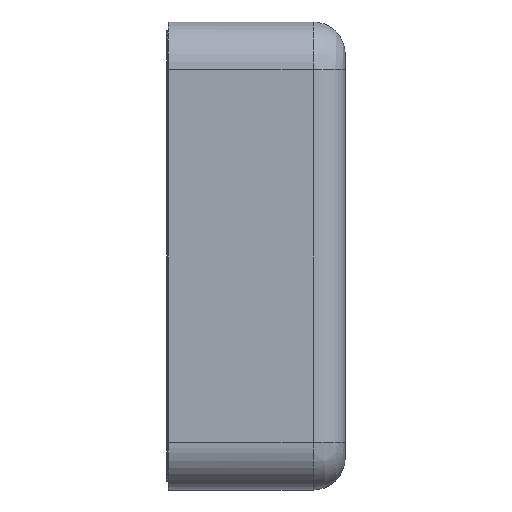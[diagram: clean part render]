
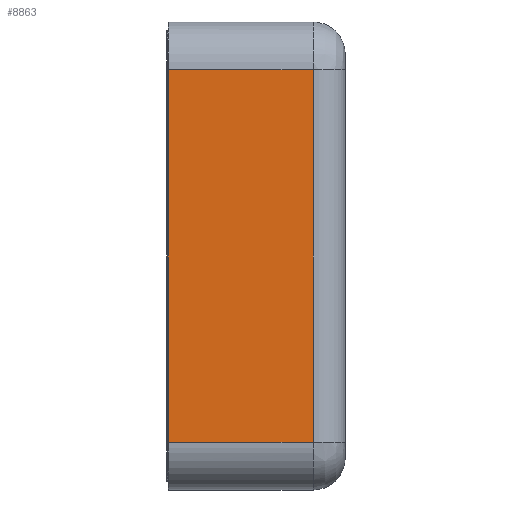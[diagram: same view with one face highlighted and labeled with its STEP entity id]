
A CAD part, left-side view. The second image highlights one B-rep face of the part: STEP entity #8863.
In plain terms, the highlighted planar face has unit normal (-1, 0, 0).
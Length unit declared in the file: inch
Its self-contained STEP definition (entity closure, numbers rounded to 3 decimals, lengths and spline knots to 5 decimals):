
#1365 = DIRECTION ( 'NONE',  ( -1., 0., 0. ) ) ;
#1911 = VERTEX_POINT ( 'NONE', #15024 ) ;
#8863 = ADVANCED_FACE ( 'NONE', ( #54377 ), #41050, .T. ) ;
#11474 = LINE ( 'NONE', #55665, #16088 ) ;
#14476 = CARTESIAN_POINT ( 'NONE',  ( -8.40857, -2.57875, -4.75502 ) ) ;
#15024 = CARTESIAN_POINT ( 'NONE',  ( -8.40857, -2.47875, 6.88767 ) ) ;
#15701 = DIRECTION ( 'NONE',  ( 0., 0., 1. ) ) ;
#16088 = VECTOR ( 'NONE', #15701, 39.37008 ) ;
#16351 = EDGE_CURVE ( 'NONE', #59263, #1911, #62000, .T. ) ;
#19706 = LINE ( 'NONE', #24752, #62704 ) ;
#21362 = DIRECTION ( 'NONE',  ( 0., 0., 1. ) ) ;
#21455 = ORIENTED_EDGE ( 'NONE', *, *, #16351, .F. ) ;
#24384 = ORIENTED_EDGE ( 'NONE', *, *, #25615, .T. ) ;
#24752 = CARTESIAN_POINT ( 'NONE',  ( -8.40857, -2.57875, 6.88767 ) ) ;
#24950 = VERTEX_POINT ( 'NONE', #55048 ) ;
#25615 = EDGE_CURVE ( 'NONE', #62992, #24950, #11474, .T. ) ;
#30827 = EDGE_CURVE ( 'NONE', #24950, #1911, #19706, .T. ) ;
#31231 = VECTOR ( 'NONE', #21362, 39.37008 ) ;
#35119 = CARTESIAN_POINT ( 'NONE',  ( -8.40857, -2.47875, 6.88767 ) ) ;
#35616 = EDGE_LOOP ( 'NONE', ( #47678, #24384, #46379, #21455 ) ) ;
#40894 = EDGE_CURVE ( 'NONE', #62992, #59263, #56501, .T. ) ;
#41050 = PLANE ( 'NONE',  #47622 ) ;
#41263 = DIRECTION ( 'NONE',  ( 0., 0., 1. ) ) ;
#43443 = VECTOR ( 'NONE', #53792, 39.37008 ) ;
#45017 = CARTESIAN_POINT ( 'NONE',  ( -8.40857, -7.00261, -4.75502 ) ) ;
#46379 = ORIENTED_EDGE ( 'NONE', *, *, #30827, .T. ) ;
#47622 = AXIS2_PLACEMENT_3D ( 'NONE', #56103, #1365, #41263 ) ;
#47678 = ORIENTED_EDGE ( 'NONE', *, *, #40894, .F. ) ;
#53792 = DIRECTION ( 'NONE',  ( 0., 1., 0. ) ) ;
#54377 = FACE_OUTER_BOUND ( 'NONE', #35616, .T. ) ;
#55048 = CARTESIAN_POINT ( 'NONE',  ( -8.40857, -7.00261, 6.88767 ) ) ;
#55665 = CARTESIAN_POINT ( 'NONE',  ( -8.40857, -7.00261, 6.88767 ) ) ;
#56103 = CARTESIAN_POINT ( 'NONE',  ( -8.40857, -2.57875, 6.88767 ) ) ;
#56501 = LINE ( 'NONE', #14476, #43443 ) ;
#59263 = VERTEX_POINT ( 'NONE', #60629 ) ;
#60629 = CARTESIAN_POINT ( 'NONE',  ( -8.40857, -2.47875, -4.75502 ) ) ;
#62000 = LINE ( 'NONE', #35119, #31231 ) ;
#62704 = VECTOR ( 'NONE', #63213, 39.37008 ) ;
#62992 = VERTEX_POINT ( 'NONE', #45017 ) ;
#63213 = DIRECTION ( 'NONE',  ( 0., 1., 0. ) ) ;
